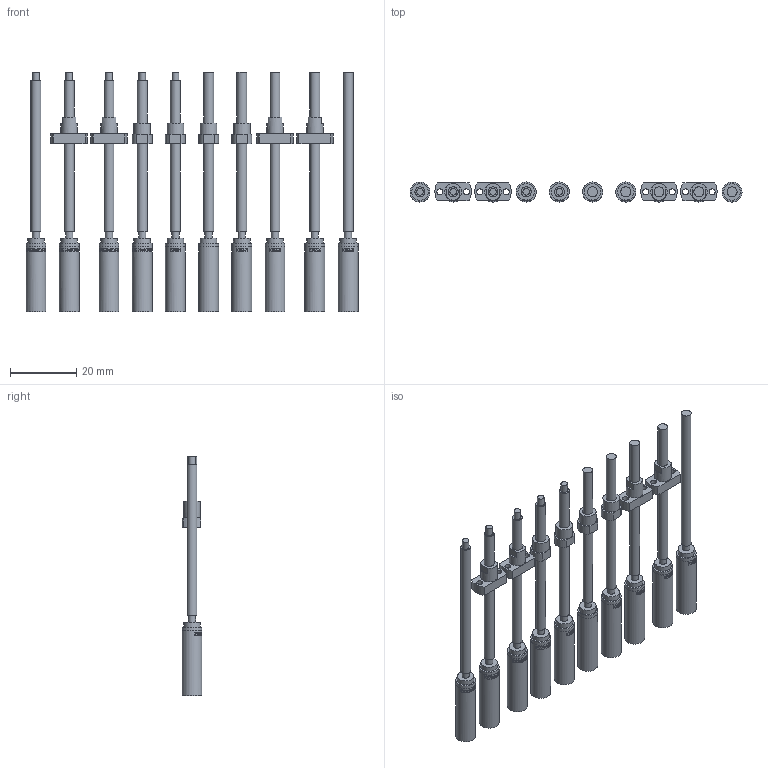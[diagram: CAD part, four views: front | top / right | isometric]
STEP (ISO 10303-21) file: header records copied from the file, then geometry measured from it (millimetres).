
FILE_DESCRIPTION(/* description */ (''),/* implementation_level */ '2;1');
FILE_NAME(/* name */ '06L-5stage_SL_standard_KWNx_KWS1.stp',/* time_stamp */ '2023-05-12T06:42:49+02:00',/* author */ ('DR. FRITZ FAULHABER GmbH & Co. KG'),/* organization */ ('DR. FRITZ FAULHABER GmbH & Co. KG'),/* preprocessor_version */ 'ST-DEVELOPER v16.7',/* originating_system */ 'SIEMENS PLM Software NX 1919',/* authorisation */ '');
FILE_SCHEMA (('AUTOMOTIVE_DESIGN { 1 0 10303 214 3 1 1 1 }'));
Length unit declared in the file: millimetre
Products named in the file (1): H99999996-C-Linear Actuato
Bounding box: 100 x 6 x 72.1 mm (x, y, z)
Volume: 10213.1 mm3; surface area: 11133.9 mm2
Topology: 10 solids, 10 shells, 970 faces, 2327 edges, 1552 vertices
Faces by surface type: plane 494, bspline 245, cylinder 211, cone 20
Full cylindrical faces by diameter (mm): 1.8 x8, 1.95 x10, 2 x5, 2.2 x10, 2.35 x10, 2.8 x10, 3 x18, 3.959 x10, 5 x28, 5.8 x10, 6 x20
Entity records: 41289 total; most frequent: CARTESIAN_POINT 17654, ORIENTED_EDGE 4244, DIRECTION 2899, EDGE_CURVE 2122, VERTEX_POINT 1508, EDGE_LOOP 1322, AXIS2_PLACEMENT_3D 1249, B_SPLINE_CURVE_WITH_KNOTS 1198
